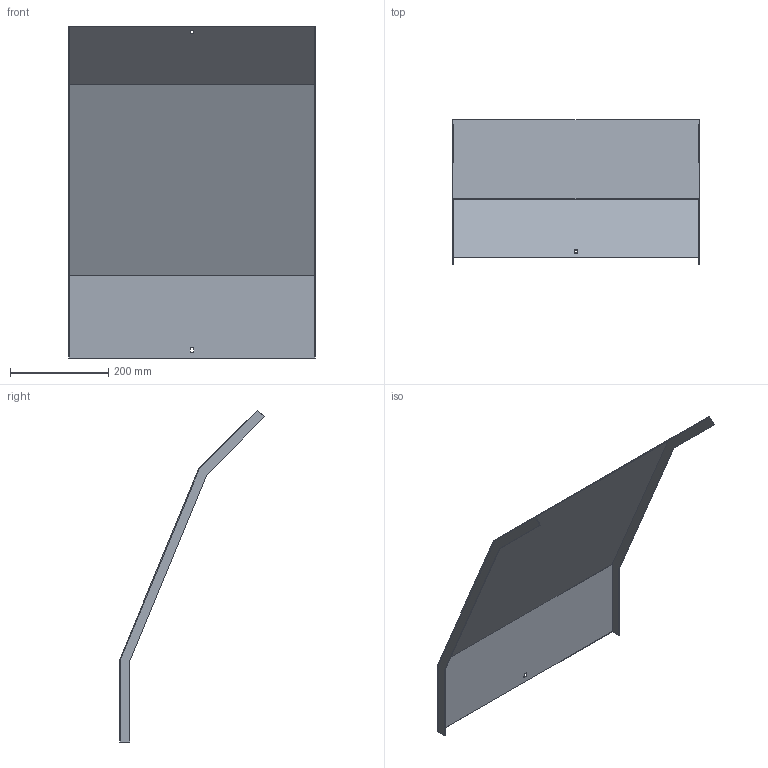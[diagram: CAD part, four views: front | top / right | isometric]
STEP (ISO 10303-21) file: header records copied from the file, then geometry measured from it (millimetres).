
FILE_DESCRIPTION (( 'STEP AP214' ), '1' );
FILE_NAME ('34N5C500.step', '2025-02-21T10:32:43', ( '' ), ( '' ), 'SwSTEP 2.0', 'SolidWorks 2023', '' );
FILE_SCHEMA (( 'AUTOMOTIVE_DESIGN' ));
Length unit declared in the file: millimetre
Products named in the file (1): 34N5C500
Bounding box: 503 x 294.72 x 677.38 mm (x, y, z)
Volume: 613619.1 mm3; surface area: 822102.6 mm2
Topology: 1 solids, 1 shells, 26 faces, 72 edges, 48 vertices
Faces by surface type: plane 26
Entity records: 847 total; most frequent: CARTESIAN_POINT 147, ORIENTED_EDGE 144, DIRECTION 126, EDGE_CURVE 72, LINE 72, VECTOR 72, VERTEX_POINT 48, EDGE_LOOP 30
